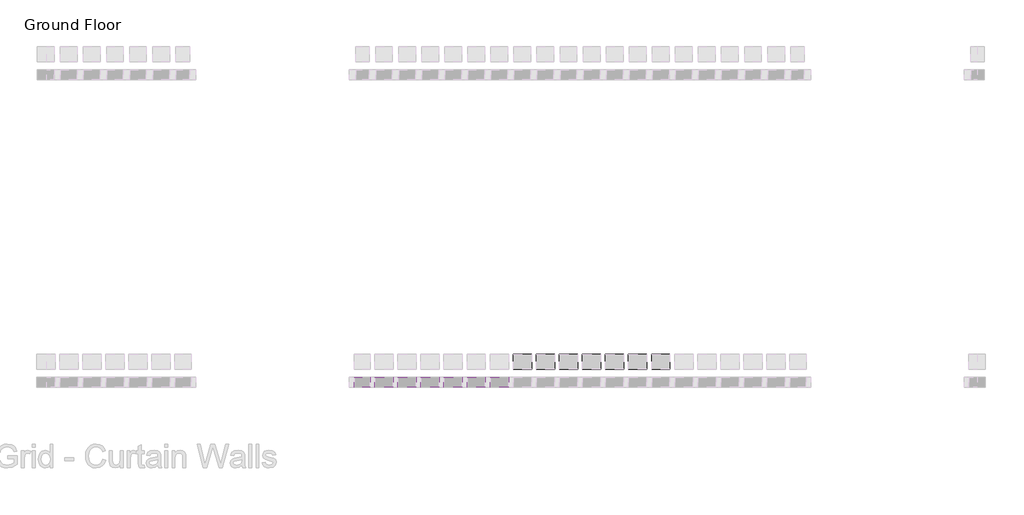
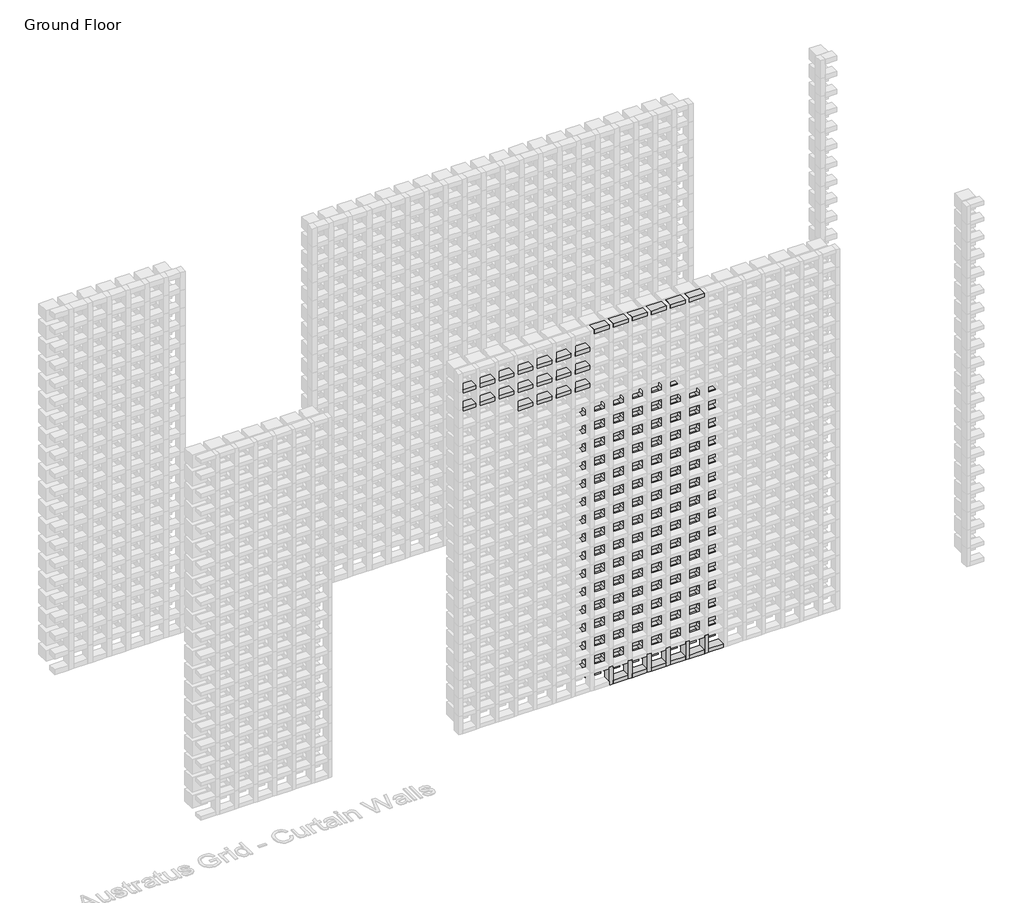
# One storey, part 58 of 350: 103 plates, 36 members.
"""IFC4 building model written with IfcOpenShell, lengths in millimetres."""

from ifc_helpers import new_model, si_unit, origin, place, context, project, spatial, transform, mapped, element, save
from components import rectangular_mullion_5b501421, rectangular_mullion_51467dcc, rectangular_mullion_d4c9a775, rectangular_mullion_e9e2e2fa, rectangular_mullion_f28dea33, empty_system_panel_empty_a57e421f, empty_system_panel_empty_fe50b430

model = new_model("IFC4")

# Units and contexts
model_context = context("Model", 3, world=origin())
ifc_project = project(units=[si_unit("LENGTHUNIT", "METRE", prefix="MILLI")], contexts=[model_context])

# Site, building, storey
site = spatial("IfcSite", under=ifc_project)
building = spatial("IfcBuilding", under=site)
storey = spatial("IfcBuildingStorey", under=building, Name="Ground Floor", Elevation=0.0)

# Members
placement = place(None, origin())
rectangular_mullion_shape = rectangular_mullion_5b501421(model_context)
element("IfcMember", 1, ObjectType="Rectangular Mullion : Batten_Timber_Modinex_Austratus_Grid_Fascia_30x65_Blackbutt", at=placement, inside=storey, context=model_context, shape_type="MappedRepresentation", body=[
    mapped(rectangular_mullion_shape, transform((7116.4361642, 38968.2978302, 0.0), x_axis=(1.0, 0.0, 0.0), y_axis=(0.0, -1.0, 0.0), z_axis=(0.0, 0.0, -1.0))),
])
element("IfcMember", 2, ObjectType="Rectangular Mullion : Batten_Timber_Modinex_Austratus_Grid_Fascia_30x65_Blackbutt", at=placement, inside=storey, context=model_context, shape_type="MappedRepresentation", body=[
    mapped(rectangular_mullion_shape, transform((7266.4361642, 38968.2978302, 0.0), x_axis=(1.0, 0.0, 0.0), y_axis=(0.0, -1.0, 0.0), z_axis=(0.0, 0.0, -1.0))),
])
element("IfcMember", 3, ObjectType="Rectangular Mullion : Batten_Timber_Modinex_Austratus_Grid_Fascia_30x65_Blackbutt", at=placement, inside=storey, context=model_context, shape_type="MappedRepresentation", body=[
    mapped(rectangular_mullion_shape, transform((7416.4361642, 38968.2978302, 0.0), x_axis=(1.0, 0.0, 0.0), y_axis=(0.0, -1.0, 0.0), z_axis=(0.0, 0.0, -1.0))),
])
element("IfcMember", 4, ObjectType="Rectangular Mullion : Batten_Timber_Modinex_Austratus_Grid_Fascia_30x65_Blackbutt", at=placement, inside=storey, context=model_context, shape_type="MappedRepresentation", body=[
    mapped(rectangular_mullion_shape, transform((7566.4361642, 38968.2978302, 0.0), x_axis=(1.0, 0.0, 0.0), y_axis=(0.0, -1.0, 0.0), z_axis=(0.0, 0.0, -1.0))),
])
element("IfcMember", 5, ObjectType="Rectangular Mullion : Batten_Timber_Modinex_Austratus_Grid_Fascia_30x65_Blackbutt", at=placement, inside=storey, context=model_context, shape_type="MappedRepresentation", body=[
    mapped(rectangular_mullion_shape, transform((7716.4361642, 38968.2978302, 0.0), x_axis=(1.0, 0.0, 0.0), y_axis=(0.0, -1.0, 0.0), z_axis=(0.0, 0.0, -1.0))),
])
element("IfcMember", 6, ObjectType="Rectangular Mullion : Batten_Timber_Modinex_Austratus_Grid_Fascia_30x65_Blackbutt", at=placement, inside=storey, context=model_context, shape_type="MappedRepresentation", body=[
    mapped(rectangular_mullion_shape, transform((7866.4361642, 38968.2978302, 0.0), x_axis=(1.0, 0.0, 0.0), y_axis=(0.0, -1.0, 0.0), z_axis=(0.0, 0.0, -1.0))),
])
rectangular_mullion_2_shape = rectangular_mullion_51467dcc(model_context)
element("IfcMember", 7, ObjectType="Rectangular Mullion : Batten_Timber_Modinex_Austratus_Grid_Fascia_30x65_Blackbutt", at=placement, inside=storey, context=model_context, shape_type="MappedRepresentation", body=[
    mapped(rectangular_mullion_2_shape, transform((7101.4361642, 38968.2978302, 3000.0), x_axis=(0.0, 0.0, 1.0), y_axis=(0.0, -1.0, 0.0), z_axis=(1.0, 0.0, 0.0))),
])
element("IfcMember", 8, ObjectType="Rectangular Mullion : Batten_Timber_Modinex_Austratus_Grid_Fascia_30x65_Blackbutt", at=placement, inside=storey, context=model_context, shape_type="MappedRepresentation", body=[
    mapped(rectangular_mullion_2_shape, transform((7251.4361642, 38968.2978302, 3000.0), x_axis=(0.0, 0.0, 1.0), y_axis=(0.0, -1.0, 0.0), z_axis=(1.0, 0.0, 0.0))),
])
element("IfcMember", 9, ObjectType="Rectangular Mullion : Batten_Timber_Modinex_Austratus_Grid_Fascia_30x65_Blackbutt", at=placement, inside=storey, context=model_context, shape_type="MappedRepresentation", body=[
    mapped(rectangular_mullion_2_shape, transform((7401.4361642, 38968.2978302, 3000.0), x_axis=(0.0, 0.0, 1.0), y_axis=(0.0, -1.0, 0.0), z_axis=(1.0, 0.0, 0.0))),
])
element("IfcMember", 10, ObjectType="Rectangular Mullion : Batten_Timber_Modinex_Austratus_Grid_Fascia_30x65_Blackbutt", at=placement, inside=storey, context=model_context, shape_type="MappedRepresentation", body=[
    mapped(rectangular_mullion_2_shape, transform((7551.4361642, 38968.2978302, 3000.0), x_axis=(0.0, 0.0, 1.0), y_axis=(0.0, -1.0, 0.0), z_axis=(1.0, 0.0, 0.0))),
])
element("IfcMember", 11, ObjectType="Rectangular Mullion : Batten_Timber_Modinex_Austratus_Grid_Fascia_30x65_Blackbutt", at=placement, inside=storey, context=model_context, shape_type="MappedRepresentation", body=[
    mapped(rectangular_mullion_2_shape, transform((7701.4361642, 38968.2978302, 3000.0), x_axis=(0.0, 0.0, 1.0), y_axis=(0.0, -1.0, 0.0), z_axis=(1.0, 0.0, 0.0))),
])
element("IfcMember", 12, ObjectType="Rectangular Mullion : Batten_Timber_Modinex_Austratus_Grid_Fascia_30x65_Blackbutt", at=placement, inside=storey, context=model_context, shape_type="MappedRepresentation", body=[
    mapped(rectangular_mullion_2_shape, transform((7851.4361642, 38968.2978302, 3000.0), x_axis=(0.0, 0.0, 1.0), y_axis=(0.0, -1.0, 0.0), z_axis=(1.0, 0.0, 0.0))),
])
rectangular_mullion_3_shape = rectangular_mullion_d4c9a775(model_context)
element("IfcMember", 13, ObjectType="Rectangular Mullion : Batten_Timber_Modinex_Austratus_Grid_Fascia_30x65_Blackbutt", at=placement, inside=storey, context=model_context, shape_type="MappedRepresentation", body=[
    mapped(rectangular_mullion_3_shape, transform((7131.4361642, 38968.2978302, 0.0), x_axis=(0.0, 0.0, -1.0), y_axis=(0.0, -1.0, 0.0), z_axis=(-1.0, 0.0, 0.0))),
])
element("IfcMember", 14, ObjectType="Rectangular Mullion : Batten_Timber_Modinex_Austratus_Grid_Fascia_30x65_Blackbutt", at=placement, inside=storey, context=model_context, shape_type="MappedRepresentation", body=[
    mapped(rectangular_mullion_3_shape, transform((7281.4361642, 38968.2978302, 0.0), x_axis=(0.0, 0.0, -1.0), y_axis=(0.0, -1.0, 0.0), z_axis=(-1.0, 0.0, 0.0))),
])
element("IfcMember", 15, ObjectType="Rectangular Mullion : Batten_Timber_Modinex_Austratus_Grid_Fascia_30x65_Blackbutt", at=placement, inside=storey, context=model_context, shape_type="MappedRepresentation", body=[
    mapped(rectangular_mullion_3_shape, transform((7431.4361642, 38968.2978302, 0.0), x_axis=(0.0, 0.0, -1.0), y_axis=(0.0, -1.0, 0.0), z_axis=(-1.0, 0.0, 0.0))),
])
element("IfcMember", 16, ObjectType="Rectangular Mullion : Batten_Timber_Modinex_Austratus_Grid_Fascia_30x65_Blackbutt", at=placement, inside=storey, context=model_context, shape_type="MappedRepresentation", body=[
    mapped(rectangular_mullion_3_shape, transform((7581.4361642, 38968.2978302, 0.0), x_axis=(0.0, 0.0, -1.0), y_axis=(0.0, -1.0, 0.0), z_axis=(-1.0, 0.0, 0.0))),
])
element("IfcMember", 17, ObjectType="Rectangular Mullion : Batten_Timber_Modinex_Austratus_Grid_Fascia_30x65_Blackbutt", at=placement, inside=storey, context=model_context, shape_type="MappedRepresentation", body=[
    mapped(rectangular_mullion_3_shape, transform((7731.4361642, 38968.2978302, 0.0), x_axis=(0.0, 0.0, -1.0), y_axis=(0.0, -1.0, 0.0), z_axis=(-1.0, 0.0, 0.0))),
])
element("IfcMember", 18, ObjectType="Rectangular Mullion : Batten_Timber_Modinex_Austratus_Grid_Fascia_30x65_Blackbutt", at=placement, inside=storey, context=model_context, shape_type="MappedRepresentation", body=[
    mapped(rectangular_mullion_3_shape, transform((7881.4361642, 38968.2978302, 0.0), x_axis=(0.0, 0.0, -1.0), y_axis=(0.0, -1.0, 0.0), z_axis=(-1.0, 0.0, 0.0))),
])
rectangular_mullion_4_shape = rectangular_mullion_e9e2e2fa(model_context)
element("IfcMember", 19, ObjectType="Rectangular Mullion : Batten_Timber_Modinex_Austratus_Grid_Fascia_30x65_Blackbutt", at=placement, inside=storey, context=model_context, shape_type="MappedRepresentation", body=[
    mapped(rectangular_mullion_4_shape, transform((6051.4361642, 38968.2978302, 2700.0), x_axis=(0.0, 0.0, 1.0), y_axis=(0.0, -1.0, 0.0), z_axis=(1.0, 0.0, 0.0))),
])
element("IfcMember", 20, ObjectType="Rectangular Mullion : Batten_Timber_Modinex_Austratus_Grid_Fascia_30x65_Blackbutt", at=placement, inside=storey, context=model_context, shape_type="MappedRepresentation", body=[
    mapped(rectangular_mullion_4_shape, transform((6051.4361642, 38968.2978302, 2850.0), x_axis=(0.0, 0.0, 1.0), y_axis=(0.0, -1.0, 0.0), z_axis=(1.0, 0.0, 0.0))),
])
rectangular_mullion_5_shape = rectangular_mullion_f28dea33(model_context)
element("IfcMember", 21, ObjectType="Rectangular Mullion : Batten_Timber_Modinex_Austratus_Grid_Fascia_30x65_Blackbutt", at=placement, inside=storey, context=model_context, shape_type="MappedRepresentation", body=[
    mapped(rectangular_mullion_5_shape, transform((6501.4361642, 38968.2978302, 2550.0), x_axis=(0.0, 0.0, 1.0), y_axis=(0.0, -1.0, 0.0), z_axis=(1.0, 0.0, 0.0))),
])
element("IfcMember", 22, ObjectType="Rectangular Mullion : Batten_Timber_Modinex_Austratus_Grid_Fascia_30x65_Blackbutt", at=placement, inside=storey, context=model_context, shape_type="MappedRepresentation", body=[
    mapped(rectangular_mullion_5_shape, transform((6651.4361642, 38968.2978302, 2550.0), x_axis=(0.0, 0.0, 1.0), y_axis=(0.0, -1.0, 0.0), z_axis=(1.0, 0.0, 0.0))),
])
element("IfcMember", 23, ObjectType="Rectangular Mullion : Batten_Timber_Modinex_Austratus_Grid_Fascia_30x65_Blackbutt", at=placement, inside=storey, context=model_context, shape_type="MappedRepresentation", body=[
    mapped(rectangular_mullion_5_shape, transform((6801.4361642, 38968.2978302, 2550.0), x_axis=(0.0, 0.0, 1.0), y_axis=(0.0, -1.0, 0.0), z_axis=(1.0, 0.0, 0.0))),
])
element("IfcMember", 24, ObjectType="Rectangular Mullion : Batten_Timber_Modinex_Austratus_Grid_Fascia_30x65_Blackbutt", at=placement, inside=storey, context=model_context, shape_type="MappedRepresentation", body=[
    mapped(rectangular_mullion_5_shape, transform((6951.4361642, 38968.2978302, 2550.0), x_axis=(0.0, 0.0, 1.0), y_axis=(0.0, -1.0, 0.0), z_axis=(1.0, 0.0, 0.0))),
])
element("IfcMember", 25, ObjectType="Rectangular Mullion : Batten_Timber_Modinex_Austratus_Grid_Fascia_30x65_Blackbutt", at=placement, inside=storey, context=model_context, shape_type="MappedRepresentation", body=[
    mapped(rectangular_mullion_5_shape, transform((6201.4361642, 38968.2978302, 2700.0), x_axis=(0.0, 0.0, 1.0), y_axis=(0.0, -1.0, 0.0), z_axis=(1.0, 0.0, 0.0))),
])
element("IfcMember", 26, ObjectType="Rectangular Mullion : Batten_Timber_Modinex_Austratus_Grid_Fascia_30x65_Blackbutt", at=placement, inside=storey, context=model_context, shape_type="MappedRepresentation", body=[
    mapped(rectangular_mullion_5_shape, transform((6351.4361642, 38968.2978302, 2700.0), x_axis=(0.0, 0.0, 1.0), y_axis=(0.0, -1.0, 0.0), z_axis=(1.0, 0.0, 0.0))),
])
element("IfcMember", 27, ObjectType="Rectangular Mullion : Batten_Timber_Modinex_Austratus_Grid_Fascia_30x65_Blackbutt", at=placement, inside=storey, context=model_context, shape_type="MappedRepresentation", body=[
    mapped(rectangular_mullion_5_shape, transform((6501.4361642, 38968.2978302, 2700.0), x_axis=(0.0, 0.0, 1.0), y_axis=(0.0, -1.0, 0.0), z_axis=(1.0, 0.0, 0.0))),
])
element("IfcMember", 28, ObjectType="Rectangular Mullion : Batten_Timber_Modinex_Austratus_Grid_Fascia_30x65_Blackbutt", at=placement, inside=storey, context=model_context, shape_type="MappedRepresentation", body=[
    mapped(rectangular_mullion_5_shape, transform((6651.4361642, 38968.2978302, 2700.0), x_axis=(0.0, 0.0, 1.0), y_axis=(0.0, -1.0, 0.0), z_axis=(1.0, 0.0, 0.0))),
])
element("IfcMember", 29, ObjectType="Rectangular Mullion : Batten_Timber_Modinex_Austratus_Grid_Fascia_30x65_Blackbutt", at=placement, inside=storey, context=model_context, shape_type="MappedRepresentation", body=[
    mapped(rectangular_mullion_5_shape, transform((6801.4361642, 38968.2978302, 2700.0), x_axis=(0.0, 0.0, 1.0), y_axis=(0.0, -1.0, 0.0), z_axis=(1.0, 0.0, 0.0))),
])
element("IfcMember", 30, ObjectType="Rectangular Mullion : Batten_Timber_Modinex_Austratus_Grid_Fascia_30x65_Blackbutt", at=placement, inside=storey, context=model_context, shape_type="MappedRepresentation", body=[
    mapped(rectangular_mullion_5_shape, transform((6951.4361642, 38968.2978302, 2700.0), x_axis=(0.0, 0.0, 1.0), y_axis=(0.0, -1.0, 0.0), z_axis=(1.0, 0.0, 0.0))),
])
element("IfcMember", 31, ObjectType="Rectangular Mullion : Batten_Timber_Modinex_Austratus_Grid_Fascia_30x65_Blackbutt", at=placement, inside=storey, context=model_context, shape_type="MappedRepresentation", body=[
    mapped(rectangular_mullion_5_shape, transform((6201.4361642, 38968.2978302, 2850.0), x_axis=(0.0, 0.0, 1.0), y_axis=(0.0, -1.0, 0.0), z_axis=(1.0, 0.0, 0.0))),
])
element("IfcMember", 32, ObjectType="Rectangular Mullion : Batten_Timber_Modinex_Austratus_Grid_Fascia_30x65_Blackbutt", at=placement, inside=storey, context=model_context, shape_type="MappedRepresentation", body=[
    mapped(rectangular_mullion_5_shape, transform((6351.4361642, 38968.2978302, 2850.0), x_axis=(0.0, 0.0, 1.0), y_axis=(0.0, -1.0, 0.0), z_axis=(1.0, 0.0, 0.0))),
])
element("IfcMember", 33, ObjectType="Rectangular Mullion : Batten_Timber_Modinex_Austratus_Grid_Fascia_30x65_Blackbutt", at=placement, inside=storey, context=model_context, shape_type="MappedRepresentation", body=[
    mapped(rectangular_mullion_5_shape, transform((6501.4361642, 38968.2978302, 2850.0), x_axis=(0.0, 0.0, 1.0), y_axis=(0.0, -1.0, 0.0), z_axis=(1.0, 0.0, 0.0))),
])
element("IfcMember", 34, ObjectType="Rectangular Mullion : Batten_Timber_Modinex_Austratus_Grid_Fascia_30x65_Blackbutt", at=placement, inside=storey, context=model_context, shape_type="MappedRepresentation", body=[
    mapped(rectangular_mullion_5_shape, transform((6651.4361642, 38968.2978302, 2850.0), x_axis=(0.0, 0.0, 1.0), y_axis=(0.0, -1.0, 0.0), z_axis=(1.0, 0.0, 0.0))),
])
element("IfcMember", 35, ObjectType="Rectangular Mullion : Batten_Timber_Modinex_Austratus_Grid_Fascia_30x65_Blackbutt", at=placement, inside=storey, context=model_context, shape_type="MappedRepresentation", body=[
    mapped(rectangular_mullion_5_shape, transform((6801.4361642, 38968.2978302, 2850.0), x_axis=(0.0, 0.0, 1.0), y_axis=(0.0, -1.0, 0.0), z_axis=(1.0, 0.0, 0.0))),
])
element("IfcMember", 36, ObjectType="Rectangular Mullion : Batten_Timber_Modinex_Austratus_Grid_Fascia_30x65_Blackbutt", at=placement, inside=storey, context=model_context, shape_type="MappedRepresentation", body=[
    mapped(rectangular_mullion_5_shape, transform((6951.4361642, 38968.2978302, 2850.0), x_axis=(0.0, 0.0, 1.0), y_axis=(0.0, -1.0, 0.0), z_axis=(1.0, 0.0, 0.0))),
])

# Plates
empty_system_panel_empty_shape = empty_system_panel_empty_a57e421f(model_context)
element("IfcPlate", 37, ObjectType="Empty System Panel : Empty", at=placement, inside=storey, context=model_context, shape_type="MappedRepresentation", body=[
    mapped(empty_system_panel_empty_shape, transform((7041.4361642, 38968.2978302, 165.0), x_axis=(1.0, 0.0, 0.0), y_axis=(0.0, 1.0, 0.0), z_axis=(0.0, 0.0, 1.0))),
])
element("IfcPlate", 38, ObjectType="Empty System Panel : Empty", at=placement, inside=storey, context=model_context, shape_type="MappedRepresentation", body=[
    mapped(empty_system_panel_empty_shape, transform((7191.4361642, 38968.2978302, 165.0), x_axis=(1.0, 0.0, 0.0), y_axis=(0.0, 1.0, 0.0), z_axis=(0.0, 0.0, 1.0))),
])
element("IfcPlate", 39, ObjectType="Empty System Panel : Empty", at=placement, inside=storey, context=model_context, shape_type="MappedRepresentation", body=[
    mapped(empty_system_panel_empty_shape, transform((7341.4361642, 38968.2978302, 165.0), x_axis=(1.0, 0.0, 0.0), y_axis=(0.0, 1.0, 0.0), z_axis=(0.0, 0.0, 1.0))),
])
element("IfcPlate", 40, ObjectType="Empty System Panel : Empty", at=placement, inside=storey, context=model_context, shape_type="MappedRepresentation", body=[
    mapped(empty_system_panel_empty_shape, transform((7491.4361642, 38968.2978302, 165.0), x_axis=(1.0, 0.0, 0.0), y_axis=(0.0, 1.0, 0.0), z_axis=(0.0, 0.0, 1.0))),
])
element("IfcPlate", 41, ObjectType="Empty System Panel : Empty", at=placement, inside=storey, context=model_context, shape_type="MappedRepresentation", body=[
    mapped(empty_system_panel_empty_shape, transform((7641.4361642, 38968.2978302, 165.0), x_axis=(1.0, 0.0, 0.0), y_axis=(0.0, 1.0, 0.0), z_axis=(0.0, 0.0, 1.0))),
])
element("IfcPlate", 42, ObjectType="Empty System Panel : Empty", at=placement, inside=storey, context=model_context, shape_type="MappedRepresentation", body=[
    mapped(empty_system_panel_empty_shape, transform((7791.4361642, 38968.2978302, 165.0), x_axis=(1.0, 0.0, 0.0), y_axis=(0.0, 1.0, 0.0), z_axis=(0.0, 0.0, 1.0))),
])
element("IfcPlate", 43, ObjectType="Empty System Panel : Empty", at=placement, inside=storey, context=model_context, shape_type="MappedRepresentation", body=[
    mapped(empty_system_panel_empty_shape, transform((7941.4361642, 38968.2978302, 165.0), x_axis=(1.0, 0.0, 0.0), y_axis=(0.0, 1.0, 0.0), z_axis=(0.0, 0.0, 1.0))),
])
element("IfcPlate", 44, ObjectType="Empty System Panel : Empty", at=placement, inside=storey, context=model_context, shape_type="MappedRepresentation", body=[
    mapped(empty_system_panel_empty_shape, transform((7041.4361642, 38968.2978302, 315.0), x_axis=(1.0, 0.0, 0.0), y_axis=(0.0, 1.0, 0.0), z_axis=(0.0, 0.0, 1.0))),
])
element("IfcPlate", 45, ObjectType="Empty System Panel : Empty", at=placement, inside=storey, context=model_context, shape_type="MappedRepresentation", body=[
    mapped(empty_system_panel_empty_shape, transform((7191.4361642, 38968.2978302, 315.0), x_axis=(1.0, 0.0, 0.0), y_axis=(0.0, 1.0, 0.0), z_axis=(0.0, 0.0, 1.0))),
])
element("IfcPlate", 46, ObjectType="Empty System Panel : Empty", at=placement, inside=storey, context=model_context, shape_type="MappedRepresentation", body=[
    mapped(empty_system_panel_empty_shape, transform((7341.4361642, 38968.2978302, 315.0), x_axis=(1.0, 0.0, 0.0), y_axis=(0.0, 1.0, 0.0), z_axis=(0.0, 0.0, 1.0))),
])
element("IfcPlate", 47, ObjectType="Empty System Panel : Empty", at=placement, inside=storey, context=model_context, shape_type="MappedRepresentation", body=[
    mapped(empty_system_panel_empty_shape, transform((7491.4361642, 38968.2978302, 315.0), x_axis=(1.0, 0.0, 0.0), y_axis=(0.0, 1.0, 0.0), z_axis=(0.0, 0.0, 1.0))),
])
element("IfcPlate", 48, ObjectType="Empty System Panel : Empty", at=placement, inside=storey, context=model_context, shape_type="MappedRepresentation", body=[
    mapped(empty_system_panel_empty_shape, transform((7641.4361642, 38968.2978302, 315.0), x_axis=(1.0, 0.0, 0.0), y_axis=(0.0, 1.0, 0.0), z_axis=(0.0, 0.0, 1.0))),
])
element("IfcPlate", 49, ObjectType="Empty System Panel : Empty", at=placement, inside=storey, context=model_context, shape_type="MappedRepresentation", body=[
    mapped(empty_system_panel_empty_shape, transform((7791.4361642, 38968.2978302, 315.0), x_axis=(1.0, 0.0, 0.0), y_axis=(0.0, 1.0, 0.0), z_axis=(0.0, 0.0, 1.0))),
])
element("IfcPlate", 50, ObjectType="Empty System Panel : Empty", at=placement, inside=storey, context=model_context, shape_type="MappedRepresentation", body=[
    mapped(empty_system_panel_empty_shape, transform((7941.4361642, 38968.2978302, 315.0), x_axis=(1.0, 0.0, 0.0), y_axis=(0.0, 1.0, 0.0), z_axis=(0.0, 0.0, 1.0))),
])
element("IfcPlate", 51, ObjectType="Empty System Panel : Empty", at=placement, inside=storey, context=model_context, shape_type="MappedRepresentation", body=[
    mapped(empty_system_panel_empty_shape, transform((7041.4361642, 38968.2978302, 465.0), x_axis=(1.0, 0.0, 0.0), y_axis=(0.0, 1.0, 0.0), z_axis=(0.0, 0.0, 1.0))),
])
element("IfcPlate", 52, ObjectType="Empty System Panel : Empty", at=placement, inside=storey, context=model_context, shape_type="MappedRepresentation", body=[
    mapped(empty_system_panel_empty_shape, transform((7191.4361642, 38968.2978302, 465.0), x_axis=(1.0, 0.0, 0.0), y_axis=(0.0, 1.0, 0.0), z_axis=(0.0, 0.0, 1.0))),
])
element("IfcPlate", 53, ObjectType="Empty System Panel : Empty", at=placement, inside=storey, context=model_context, shape_type="MappedRepresentation", body=[
    mapped(empty_system_panel_empty_shape, transform((7341.4361642, 38968.2978302, 465.0), x_axis=(1.0, 0.0, 0.0), y_axis=(0.0, 1.0, 0.0), z_axis=(0.0, 0.0, 1.0))),
])
element("IfcPlate", 54, ObjectType="Empty System Panel : Empty", at=placement, inside=storey, context=model_context, shape_type="MappedRepresentation", body=[
    mapped(empty_system_panel_empty_shape, transform((7491.4361642, 38968.2978302, 465.0), x_axis=(1.0, 0.0, 0.0), y_axis=(0.0, 1.0, 0.0), z_axis=(0.0, 0.0, 1.0))),
])
element("IfcPlate", 55, ObjectType="Empty System Panel : Empty", at=placement, inside=storey, context=model_context, shape_type="MappedRepresentation", body=[
    mapped(empty_system_panel_empty_shape, transform((7641.4361642, 38968.2978302, 465.0), x_axis=(1.0, 0.0, 0.0), y_axis=(0.0, 1.0, 0.0), z_axis=(0.0, 0.0, 1.0))),
])
element("IfcPlate", 56, ObjectType="Empty System Panel : Empty", at=placement, inside=storey, context=model_context, shape_type="MappedRepresentation", body=[
    mapped(empty_system_panel_empty_shape, transform((7791.4361642, 38968.2978302, 465.0), x_axis=(1.0, 0.0, 0.0), y_axis=(0.0, 1.0, 0.0), z_axis=(0.0, 0.0, 1.0))),
])
element("IfcPlate", 57, ObjectType="Empty System Panel : Empty", at=placement, inside=storey, context=model_context, shape_type="MappedRepresentation", body=[
    mapped(empty_system_panel_empty_shape, transform((7941.4361642, 38968.2978302, 465.0), x_axis=(1.0, 0.0, 0.0), y_axis=(0.0, 1.0, 0.0), z_axis=(0.0, 0.0, 1.0))),
])
element("IfcPlate", 58, ObjectType="Empty System Panel : Empty", at=placement, inside=storey, context=model_context, shape_type="MappedRepresentation", body=[
    mapped(empty_system_panel_empty_shape, transform((7041.4361642, 38968.2978302, 615.0), x_axis=(1.0, 0.0, 0.0), y_axis=(0.0, 1.0, 0.0), z_axis=(0.0, 0.0, 1.0))),
])
element("IfcPlate", 59, ObjectType="Empty System Panel : Empty", at=placement, inside=storey, context=model_context, shape_type="MappedRepresentation", body=[
    mapped(empty_system_panel_empty_shape, transform((7191.4361642, 38968.2978302, 615.0), x_axis=(1.0, 0.0, 0.0), y_axis=(0.0, 1.0, 0.0), z_axis=(0.0, 0.0, 1.0))),
])
element("IfcPlate", 60, ObjectType="Empty System Panel : Empty", at=placement, inside=storey, context=model_context, shape_type="MappedRepresentation", body=[
    mapped(empty_system_panel_empty_shape, transform((7341.4361642, 38968.2978302, 615.0), x_axis=(1.0, 0.0, 0.0), y_axis=(0.0, 1.0, 0.0), z_axis=(0.0, 0.0, 1.0))),
])
element("IfcPlate", 61, ObjectType="Empty System Panel : Empty", at=placement, inside=storey, context=model_context, shape_type="MappedRepresentation", body=[
    mapped(empty_system_panel_empty_shape, transform((7491.4361642, 38968.2978302, 615.0), x_axis=(1.0, 0.0, 0.0), y_axis=(0.0, 1.0, 0.0), z_axis=(0.0, 0.0, 1.0))),
])
element("IfcPlate", 62, ObjectType="Empty System Panel : Empty", at=placement, inside=storey, context=model_context, shape_type="MappedRepresentation", body=[
    mapped(empty_system_panel_empty_shape, transform((7641.4361642, 38968.2978302, 615.0), x_axis=(1.0, 0.0, 0.0), y_axis=(0.0, 1.0, 0.0), z_axis=(0.0, 0.0, 1.0))),
])
element("IfcPlate", 63, ObjectType="Empty System Panel : Empty", at=placement, inside=storey, context=model_context, shape_type="MappedRepresentation", body=[
    mapped(empty_system_panel_empty_shape, transform((7791.4361642, 38968.2978302, 615.0), x_axis=(1.0, 0.0, 0.0), y_axis=(0.0, 1.0, 0.0), z_axis=(0.0, 0.0, 1.0))),
])
element("IfcPlate", 64, ObjectType="Empty System Panel : Empty", at=placement, inside=storey, context=model_context, shape_type="MappedRepresentation", body=[
    mapped(empty_system_panel_empty_shape, transform((7941.4361642, 38968.2978302, 615.0), x_axis=(1.0, 0.0, 0.0), y_axis=(0.0, 1.0, 0.0), z_axis=(0.0, 0.0, 1.0))),
])
element("IfcPlate", 65, ObjectType="Empty System Panel : Empty", at=placement, inside=storey, context=model_context, shape_type="MappedRepresentation", body=[
    mapped(empty_system_panel_empty_shape, transform((7041.4361642, 38968.2978302, 765.0), x_axis=(1.0, 0.0, 0.0), y_axis=(0.0, 1.0, 0.0), z_axis=(0.0, 0.0, 1.0))),
])
element("IfcPlate", 66, ObjectType="Empty System Panel : Empty", at=placement, inside=storey, context=model_context, shape_type="MappedRepresentation", body=[
    mapped(empty_system_panel_empty_shape, transform((7191.4361642, 38968.2978302, 765.0), x_axis=(1.0, 0.0, 0.0), y_axis=(0.0, 1.0, 0.0), z_axis=(0.0, 0.0, 1.0))),
])
element("IfcPlate", 67, ObjectType="Empty System Panel : Empty", at=placement, inside=storey, context=model_context, shape_type="MappedRepresentation", body=[
    mapped(empty_system_panel_empty_shape, transform((7341.4361642, 38968.2978302, 765.0), x_axis=(1.0, 0.0, 0.0), y_axis=(0.0, 1.0, 0.0), z_axis=(0.0, 0.0, 1.0))),
])
element("IfcPlate", 68, ObjectType="Empty System Panel : Empty", at=placement, inside=storey, context=model_context, shape_type="MappedRepresentation", body=[
    mapped(empty_system_panel_empty_shape, transform((7491.4361642, 38968.2978302, 765.0), x_axis=(1.0, 0.0, 0.0), y_axis=(0.0, 1.0, 0.0), z_axis=(0.0, 0.0, 1.0))),
])
element("IfcPlate", 69, ObjectType="Empty System Panel : Empty", at=placement, inside=storey, context=model_context, shape_type="MappedRepresentation", body=[
    mapped(empty_system_panel_empty_shape, transform((7641.4361642, 38968.2978302, 765.0), x_axis=(1.0, 0.0, 0.0), y_axis=(0.0, 1.0, 0.0), z_axis=(0.0, 0.0, 1.0))),
])
element("IfcPlate", 70, ObjectType="Empty System Panel : Empty", at=placement, inside=storey, context=model_context, shape_type="MappedRepresentation", body=[
    mapped(empty_system_panel_empty_shape, transform((7791.4361642, 38968.2978302, 765.0), x_axis=(1.0, 0.0, 0.0), y_axis=(0.0, 1.0, 0.0), z_axis=(0.0, 0.0, 1.0))),
])
element("IfcPlate", 71, ObjectType="Empty System Panel : Empty", at=placement, inside=storey, context=model_context, shape_type="MappedRepresentation", body=[
    mapped(empty_system_panel_empty_shape, transform((7941.4361642, 38968.2978302, 765.0), x_axis=(1.0, 0.0, 0.0), y_axis=(0.0, 1.0, 0.0), z_axis=(0.0, 0.0, 1.0))),
])
element("IfcPlate", 72, ObjectType="Empty System Panel : Empty", at=placement, inside=storey, context=model_context, shape_type="MappedRepresentation", body=[
    mapped(empty_system_panel_empty_shape, transform((7041.4361642, 38968.2978302, 915.0), x_axis=(1.0, 0.0, 0.0), y_axis=(0.0, 1.0, 0.0), z_axis=(0.0, 0.0, 1.0))),
])
element("IfcPlate", 73, ObjectType="Empty System Panel : Empty", at=placement, inside=storey, context=model_context, shape_type="MappedRepresentation", body=[
    mapped(empty_system_panel_empty_shape, transform((7191.4361642, 38968.2978302, 915.0), x_axis=(1.0, 0.0, 0.0), y_axis=(0.0, 1.0, 0.0), z_axis=(0.0, 0.0, 1.0))),
])
element("IfcPlate", 74, ObjectType="Empty System Panel : Empty", at=placement, inside=storey, context=model_context, shape_type="MappedRepresentation", body=[
    mapped(empty_system_panel_empty_shape, transform((7341.4361642, 38968.2978302, 915.0), x_axis=(1.0, 0.0, 0.0), y_axis=(0.0, 1.0, 0.0), z_axis=(0.0, 0.0, 1.0))),
])
element("IfcPlate", 75, ObjectType="Empty System Panel : Empty", at=placement, inside=storey, context=model_context, shape_type="MappedRepresentation", body=[
    mapped(empty_system_panel_empty_shape, transform((7491.4361642, 38968.2978302, 915.0), x_axis=(1.0, 0.0, 0.0), y_axis=(0.0, 1.0, 0.0), z_axis=(0.0, 0.0, 1.0))),
])
element("IfcPlate", 76, ObjectType="Empty System Panel : Empty", at=placement, inside=storey, context=model_context, shape_type="MappedRepresentation", body=[
    mapped(empty_system_panel_empty_shape, transform((7641.4361642, 38968.2978302, 915.0), x_axis=(1.0, 0.0, 0.0), y_axis=(0.0, 1.0, 0.0), z_axis=(0.0, 0.0, 1.0))),
])
element("IfcPlate", 77, ObjectType="Empty System Panel : Empty", at=placement, inside=storey, context=model_context, shape_type="MappedRepresentation", body=[
    mapped(empty_system_panel_empty_shape, transform((7791.4361642, 38968.2978302, 915.0), x_axis=(1.0, 0.0, 0.0), y_axis=(0.0, 1.0, 0.0), z_axis=(0.0, 0.0, 1.0))),
])
element("IfcPlate", 78, ObjectType="Empty System Panel : Empty", at=placement, inside=storey, context=model_context, shape_type="MappedRepresentation", body=[
    mapped(empty_system_panel_empty_shape, transform((7941.4361642, 38968.2978302, 915.0), x_axis=(1.0, 0.0, 0.0), y_axis=(0.0, 1.0, 0.0), z_axis=(0.0, 0.0, 1.0))),
])
element("IfcPlate", 79, ObjectType="Empty System Panel : Empty", at=placement, inside=storey, context=model_context, shape_type="MappedRepresentation", body=[
    mapped(empty_system_panel_empty_shape, transform((7041.4361642, 38968.2978302, 1065.0), x_axis=(1.0, 0.0, 0.0), y_axis=(0.0, 1.0, 0.0), z_axis=(0.0, 0.0, 1.0))),
])
element("IfcPlate", 80, ObjectType="Empty System Panel : Empty", at=placement, inside=storey, context=model_context, shape_type="MappedRepresentation", body=[
    mapped(empty_system_panel_empty_shape, transform((7191.4361642, 38968.2978302, 1065.0), x_axis=(1.0, 0.0, 0.0), y_axis=(0.0, 1.0, 0.0), z_axis=(0.0, 0.0, 1.0))),
])
element("IfcPlate", 81, ObjectType="Empty System Panel : Empty", at=placement, inside=storey, context=model_context, shape_type="MappedRepresentation", body=[
    mapped(empty_system_panel_empty_shape, transform((7341.4361642, 38968.2978302, 1065.0), x_axis=(1.0, 0.0, 0.0), y_axis=(0.0, 1.0, 0.0), z_axis=(0.0, 0.0, 1.0))),
])
element("IfcPlate", 82, ObjectType="Empty System Panel : Empty", at=placement, inside=storey, context=model_context, shape_type="MappedRepresentation", body=[
    mapped(empty_system_panel_empty_shape, transform((7491.4361642, 38968.2978302, 1065.0), x_axis=(1.0, 0.0, 0.0), y_axis=(0.0, 1.0, 0.0), z_axis=(0.0, 0.0, 1.0))),
])
element("IfcPlate", 83, ObjectType="Empty System Panel : Empty", at=placement, inside=storey, context=model_context, shape_type="MappedRepresentation", body=[
    mapped(empty_system_panel_empty_shape, transform((7641.4361642, 38968.2978302, 1065.0), x_axis=(1.0, 0.0, 0.0), y_axis=(0.0, 1.0, 0.0), z_axis=(0.0, 0.0, 1.0))),
])
element("IfcPlate", 84, ObjectType="Empty System Panel : Empty", at=placement, inside=storey, context=model_context, shape_type="MappedRepresentation", body=[
    mapped(empty_system_panel_empty_shape, transform((7791.4361642, 38968.2978302, 1065.0), x_axis=(1.0, 0.0, 0.0), y_axis=(0.0, 1.0, 0.0), z_axis=(0.0, 0.0, 1.0))),
])
element("IfcPlate", 85, ObjectType="Empty System Panel : Empty", at=placement, inside=storey, context=model_context, shape_type="MappedRepresentation", body=[
    mapped(empty_system_panel_empty_shape, transform((7941.4361642, 38968.2978302, 1065.0), x_axis=(1.0, 0.0, 0.0), y_axis=(0.0, 1.0, 0.0), z_axis=(0.0, 0.0, 1.0))),
])
element("IfcPlate", 86, ObjectType="Empty System Panel : Empty", at=placement, inside=storey, context=model_context, shape_type="MappedRepresentation", body=[
    mapped(empty_system_panel_empty_shape, transform((7041.4361642, 38968.2978302, 1215.0), x_axis=(1.0, 0.0, 0.0), y_axis=(0.0, 1.0, 0.0), z_axis=(0.0, 0.0, 1.0))),
])
element("IfcPlate", 87, ObjectType="Empty System Panel : Empty", at=placement, inside=storey, context=model_context, shape_type="MappedRepresentation", body=[
    mapped(empty_system_panel_empty_shape, transform((7191.4361642, 38968.2978302, 1215.0), x_axis=(1.0, 0.0, 0.0), y_axis=(0.0, 1.0, 0.0), z_axis=(0.0, 0.0, 1.0))),
])
element("IfcPlate", 88, ObjectType="Empty System Panel : Empty", at=placement, inside=storey, context=model_context, shape_type="MappedRepresentation", body=[
    mapped(empty_system_panel_empty_shape, transform((7341.4361642, 38968.2978302, 1215.0), x_axis=(1.0, 0.0, 0.0), y_axis=(0.0, 1.0, 0.0), z_axis=(0.0, 0.0, 1.0))),
])
element("IfcPlate", 89, ObjectType="Empty System Panel : Empty", at=placement, inside=storey, context=model_context, shape_type="MappedRepresentation", body=[
    mapped(empty_system_panel_empty_shape, transform((7491.4361642, 38968.2978302, 1215.0), x_axis=(1.0, 0.0, 0.0), y_axis=(0.0, 1.0, 0.0), z_axis=(0.0, 0.0, 1.0))),
])
element("IfcPlate", 90, ObjectType="Empty System Panel : Empty", at=placement, inside=storey, context=model_context, shape_type="MappedRepresentation", body=[
    mapped(empty_system_panel_empty_shape, transform((7641.4361642, 38968.2978302, 1215.0), x_axis=(1.0, 0.0, 0.0), y_axis=(0.0, 1.0, 0.0), z_axis=(0.0, 0.0, 1.0))),
])
element("IfcPlate", 91, ObjectType="Empty System Panel : Empty", at=placement, inside=storey, context=model_context, shape_type="MappedRepresentation", body=[
    mapped(empty_system_panel_empty_shape, transform((7791.4361642, 38968.2978302, 1215.0), x_axis=(1.0, 0.0, 0.0), y_axis=(0.0, 1.0, 0.0), z_axis=(0.0, 0.0, 1.0))),
])
element("IfcPlate", 92, ObjectType="Empty System Panel : Empty", at=placement, inside=storey, context=model_context, shape_type="MappedRepresentation", body=[
    mapped(empty_system_panel_empty_shape, transform((7941.4361642, 38968.2978302, 1215.0), x_axis=(1.0, 0.0, 0.0), y_axis=(0.0, 1.0, 0.0), z_axis=(0.0, 0.0, 1.0))),
])
element("IfcPlate", 93, ObjectType="Empty System Panel : Empty", at=placement, inside=storey, context=model_context, shape_type="MappedRepresentation", body=[
    mapped(empty_system_panel_empty_shape, transform((7041.4361642, 38968.2978302, 1365.0), x_axis=(1.0, 0.0, 0.0), y_axis=(0.0, 1.0, 0.0), z_axis=(0.0, 0.0, 1.0))),
])
element("IfcPlate", 94, ObjectType="Empty System Panel : Empty", at=placement, inside=storey, context=model_context, shape_type="MappedRepresentation", body=[
    mapped(empty_system_panel_empty_shape, transform((7191.4361642, 38968.2978302, 1365.0), x_axis=(1.0, 0.0, 0.0), y_axis=(0.0, 1.0, 0.0), z_axis=(0.0, 0.0, 1.0))),
])
element("IfcPlate", 95, ObjectType="Empty System Panel : Empty", at=placement, inside=storey, context=model_context, shape_type="MappedRepresentation", body=[
    mapped(empty_system_panel_empty_shape, transform((7341.4361642, 38968.2978302, 1365.0), x_axis=(1.0, 0.0, 0.0), y_axis=(0.0, 1.0, 0.0), z_axis=(0.0, 0.0, 1.0))),
])
element("IfcPlate", 96, ObjectType="Empty System Panel : Empty", at=placement, inside=storey, context=model_context, shape_type="MappedRepresentation", body=[
    mapped(empty_system_panel_empty_shape, transform((7491.4361642, 38968.2978302, 1365.0), x_axis=(1.0, 0.0, 0.0), y_axis=(0.0, 1.0, 0.0), z_axis=(0.0, 0.0, 1.0))),
])
element("IfcPlate", 97, ObjectType="Empty System Panel : Empty", at=placement, inside=storey, context=model_context, shape_type="MappedRepresentation", body=[
    mapped(empty_system_panel_empty_shape, transform((7641.4361642, 38968.2978302, 1365.0), x_axis=(1.0, 0.0, 0.0), y_axis=(0.0, 1.0, 0.0), z_axis=(0.0, 0.0, 1.0))),
])
element("IfcPlate", 98, ObjectType="Empty System Panel : Empty", at=placement, inside=storey, context=model_context, shape_type="MappedRepresentation", body=[
    mapped(empty_system_panel_empty_shape, transform((7791.4361642, 38968.2978302, 1365.0), x_axis=(1.0, 0.0, 0.0), y_axis=(0.0, 1.0, 0.0), z_axis=(0.0, 0.0, 1.0))),
])
element("IfcPlate", 99, ObjectType="Empty System Panel : Empty", at=placement, inside=storey, context=model_context, shape_type="MappedRepresentation", body=[
    mapped(empty_system_panel_empty_shape, transform((7941.4361642, 38968.2978302, 1365.0), x_axis=(1.0, 0.0, 0.0), y_axis=(0.0, 1.0, 0.0), z_axis=(0.0, 0.0, 1.0))),
])
element("IfcPlate", 100, ObjectType="Empty System Panel : Empty", at=placement, inside=storey, context=model_context, shape_type="MappedRepresentation", body=[
    mapped(empty_system_panel_empty_shape, transform((7041.4361642, 38968.2978302, 1515.0), x_axis=(1.0, 0.0, 0.0), y_axis=(0.0, 1.0, 0.0), z_axis=(0.0, 0.0, 1.0))),
])
element("IfcPlate", 101, ObjectType="Empty System Panel : Empty", at=placement, inside=storey, context=model_context, shape_type="MappedRepresentation", body=[
    mapped(empty_system_panel_empty_shape, transform((7191.4361642, 38968.2978302, 1515.0), x_axis=(1.0, 0.0, 0.0), y_axis=(0.0, 1.0, 0.0), z_axis=(0.0, 0.0, 1.0))),
])
element("IfcPlate", 102, ObjectType="Empty System Panel : Empty", at=placement, inside=storey, context=model_context, shape_type="MappedRepresentation", body=[
    mapped(empty_system_panel_empty_shape, transform((7341.4361642, 38968.2978302, 1515.0), x_axis=(1.0, 0.0, 0.0), y_axis=(0.0, 1.0, 0.0), z_axis=(0.0, 0.0, 1.0))),
])
element("IfcPlate", 103, ObjectType="Empty System Panel : Empty", at=placement, inside=storey, context=model_context, shape_type="MappedRepresentation", body=[
    mapped(empty_system_panel_empty_shape, transform((7491.4361642, 38968.2978302, 1515.0), x_axis=(1.0, 0.0, 0.0), y_axis=(0.0, 1.0, 0.0), z_axis=(0.0, 0.0, 1.0))),
])
element("IfcPlate", 104, ObjectType="Empty System Panel : Empty", at=placement, inside=storey, context=model_context, shape_type="MappedRepresentation", body=[
    mapped(empty_system_panel_empty_shape, transform((7641.4361642, 38968.2978302, 1515.0), x_axis=(1.0, 0.0, 0.0), y_axis=(0.0, 1.0, 0.0), z_axis=(0.0, 0.0, 1.0))),
])
element("IfcPlate", 105, ObjectType="Empty System Panel : Empty", at=placement, inside=storey, context=model_context, shape_type="MappedRepresentation", body=[
    mapped(empty_system_panel_empty_shape, transform((7791.4361642, 38968.2978302, 1515.0), x_axis=(1.0, 0.0, 0.0), y_axis=(0.0, 1.0, 0.0), z_axis=(0.0, 0.0, 1.0))),
])
element("IfcPlate", 106, ObjectType="Empty System Panel : Empty", at=placement, inside=storey, context=model_context, shape_type="MappedRepresentation", body=[
    mapped(empty_system_panel_empty_shape, transform((7941.4361642, 38968.2978302, 1515.0), x_axis=(1.0, 0.0, 0.0), y_axis=(0.0, 1.0, 0.0), z_axis=(0.0, 0.0, 1.0))),
])
element("IfcPlate", 107, ObjectType="Empty System Panel : Empty", at=placement, inside=storey, context=model_context, shape_type="MappedRepresentation", body=[
    mapped(empty_system_panel_empty_shape, transform((7041.4361642, 38968.2978302, 1665.0), x_axis=(1.0, 0.0, 0.0), y_axis=(0.0, 1.0, 0.0), z_axis=(0.0, 0.0, 1.0))),
])
element("IfcPlate", 108, ObjectType="Empty System Panel : Empty", at=placement, inside=storey, context=model_context, shape_type="MappedRepresentation", body=[
    mapped(empty_system_panel_empty_shape, transform((7191.4361642, 38968.2978302, 1665.0), x_axis=(1.0, 0.0, 0.0), y_axis=(0.0, 1.0, 0.0), z_axis=(0.0, 0.0, 1.0))),
])
element("IfcPlate", 109, ObjectType="Empty System Panel : Empty", at=placement, inside=storey, context=model_context, shape_type="MappedRepresentation", body=[
    mapped(empty_system_panel_empty_shape, transform((7341.4361642, 38968.2978302, 1665.0), x_axis=(1.0, 0.0, 0.0), y_axis=(0.0, 1.0, 0.0), z_axis=(0.0, 0.0, 1.0))),
])
element("IfcPlate", 110, ObjectType="Empty System Panel : Empty", at=placement, inside=storey, context=model_context, shape_type="MappedRepresentation", body=[
    mapped(empty_system_panel_empty_shape, transform((7491.4361642, 38968.2978302, 1665.0), x_axis=(1.0, 0.0, 0.0), y_axis=(0.0, 1.0, 0.0), z_axis=(0.0, 0.0, 1.0))),
])
element("IfcPlate", 111, ObjectType="Empty System Panel : Empty", at=placement, inside=storey, context=model_context, shape_type="MappedRepresentation", body=[
    mapped(empty_system_panel_empty_shape, transform((7641.4361642, 38968.2978302, 1665.0), x_axis=(1.0, 0.0, 0.0), y_axis=(0.0, 1.0, 0.0), z_axis=(0.0, 0.0, 1.0))),
])
element("IfcPlate", 112, ObjectType="Empty System Panel : Empty", at=placement, inside=storey, context=model_context, shape_type="MappedRepresentation", body=[
    mapped(empty_system_panel_empty_shape, transform((7791.4361642, 38968.2978302, 1665.0), x_axis=(1.0, 0.0, 0.0), y_axis=(0.0, 1.0, 0.0), z_axis=(0.0, 0.0, 1.0))),
])
element("IfcPlate", 113, ObjectType="Empty System Panel : Empty", at=placement, inside=storey, context=model_context, shape_type="MappedRepresentation", body=[
    mapped(empty_system_panel_empty_shape, transform((7941.4361642, 38968.2978302, 1665.0), x_axis=(1.0, 0.0, 0.0), y_axis=(0.0, 1.0, 0.0), z_axis=(0.0, 0.0, 1.0))),
])
element("IfcPlate", 114, ObjectType="Empty System Panel : Empty", at=placement, inside=storey, context=model_context, shape_type="MappedRepresentation", body=[
    mapped(empty_system_panel_empty_shape, transform((7041.4361642, 38968.2978302, 1815.0), x_axis=(1.0, 0.0, 0.0), y_axis=(0.0, 1.0, 0.0), z_axis=(0.0, 0.0, 1.0))),
])
element("IfcPlate", 115, ObjectType="Empty System Panel : Empty", at=placement, inside=storey, context=model_context, shape_type="MappedRepresentation", body=[
    mapped(empty_system_panel_empty_shape, transform((7191.4361642, 38968.2978302, 1815.0), x_axis=(1.0, 0.0, 0.0), y_axis=(0.0, 1.0, 0.0), z_axis=(0.0, 0.0, 1.0))),
])
element("IfcPlate", 116, ObjectType="Empty System Panel : Empty", at=placement, inside=storey, context=model_context, shape_type="MappedRepresentation", body=[
    mapped(empty_system_panel_empty_shape, transform((7341.4361642, 38968.2978302, 1815.0), x_axis=(1.0, 0.0, 0.0), y_axis=(0.0, 1.0, 0.0), z_axis=(0.0, 0.0, 1.0))),
])
element("IfcPlate", 117, ObjectType="Empty System Panel : Empty", at=placement, inside=storey, context=model_context, shape_type="MappedRepresentation", body=[
    mapped(empty_system_panel_empty_shape, transform((7491.4361642, 38968.2978302, 1815.0), x_axis=(1.0, 0.0, 0.0), y_axis=(0.0, 1.0, 0.0), z_axis=(0.0, 0.0, 1.0))),
])
element("IfcPlate", 118, ObjectType="Empty System Panel : Empty", at=placement, inside=storey, context=model_context, shape_type="MappedRepresentation", body=[
    mapped(empty_system_panel_empty_shape, transform((7641.4361642, 38968.2978302, 1815.0), x_axis=(1.0, 0.0, 0.0), y_axis=(0.0, 1.0, 0.0), z_axis=(0.0, 0.0, 1.0))),
])
element("IfcPlate", 119, ObjectType="Empty System Panel : Empty", at=placement, inside=storey, context=model_context, shape_type="MappedRepresentation", body=[
    mapped(empty_system_panel_empty_shape, transform((7791.4361642, 38968.2978302, 1815.0), x_axis=(1.0, 0.0, 0.0), y_axis=(0.0, 1.0, 0.0), z_axis=(0.0, 0.0, 1.0))),
])
element("IfcPlate", 120, ObjectType="Empty System Panel : Empty", at=placement, inside=storey, context=model_context, shape_type="MappedRepresentation", body=[
    mapped(empty_system_panel_empty_shape, transform((7941.4361642, 38968.2978302, 1815.0), x_axis=(1.0, 0.0, 0.0), y_axis=(0.0, 1.0, 0.0), z_axis=(0.0, 0.0, 1.0))),
])
element("IfcPlate", 121, ObjectType="Empty System Panel : Empty", at=placement, inside=storey, context=model_context, shape_type="MappedRepresentation", body=[
    mapped(empty_system_panel_empty_shape, transform((7041.4361642, 38968.2978302, 1965.0), x_axis=(1.0, 0.0, 0.0), y_axis=(0.0, 1.0, 0.0), z_axis=(0.0, 0.0, 1.0))),
])
element("IfcPlate", 122, ObjectType="Empty System Panel : Empty", at=placement, inside=storey, context=model_context, shape_type="MappedRepresentation", body=[
    mapped(empty_system_panel_empty_shape, transform((7191.4361642, 38968.2978302, 1965.0), x_axis=(1.0, 0.0, 0.0), y_axis=(0.0, 1.0, 0.0), z_axis=(0.0, 0.0, 1.0))),
])
element("IfcPlate", 123, ObjectType="Empty System Panel : Empty", at=placement, inside=storey, context=model_context, shape_type="MappedRepresentation", body=[
    mapped(empty_system_panel_empty_shape, transform((7341.4361642, 38968.2978302, 1965.0), x_axis=(1.0, 0.0, 0.0), y_axis=(0.0, 1.0, 0.0), z_axis=(0.0, 0.0, 1.0))),
])
element("IfcPlate", 124, ObjectType="Empty System Panel : Empty", at=placement, inside=storey, context=model_context, shape_type="MappedRepresentation", body=[
    mapped(empty_system_panel_empty_shape, transform((7491.4361642, 38968.2978302, 1965.0), x_axis=(1.0, 0.0, 0.0), y_axis=(0.0, 1.0, 0.0), z_axis=(0.0, 0.0, 1.0))),
])
element("IfcPlate", 125, ObjectType="Empty System Panel : Empty", at=placement, inside=storey, context=model_context, shape_type="MappedRepresentation", body=[
    mapped(empty_system_panel_empty_shape, transform((7641.4361642, 38968.2978302, 1965.0), x_axis=(1.0, 0.0, 0.0), y_axis=(0.0, 1.0, 0.0), z_axis=(0.0, 0.0, 1.0))),
])
element("IfcPlate", 126, ObjectType="Empty System Panel : Empty", at=placement, inside=storey, context=model_context, shape_type="MappedRepresentation", body=[
    mapped(empty_system_panel_empty_shape, transform((7791.4361642, 38968.2978302, 1965.0), x_axis=(1.0, 0.0, 0.0), y_axis=(0.0, 1.0, 0.0), z_axis=(0.0, 0.0, 1.0))),
])
element("IfcPlate", 127, ObjectType="Empty System Panel : Empty", at=placement, inside=storey, context=model_context, shape_type="MappedRepresentation", body=[
    mapped(empty_system_panel_empty_shape, transform((7941.4361642, 38968.2978302, 1965.0), x_axis=(1.0, 0.0, 0.0), y_axis=(0.0, 1.0, 0.0), z_axis=(0.0, 0.0, 1.0))),
])
element("IfcPlate", 128, ObjectType="Empty System Panel : Empty", at=placement, inside=storey, context=model_context, shape_type="MappedRepresentation", body=[
    mapped(empty_system_panel_empty_shape, transform((7041.4361642, 38968.2978302, 2115.0), x_axis=(1.0, 0.0, 0.0), y_axis=(0.0, 1.0, 0.0), z_axis=(0.0, 0.0, 1.0))),
])
element("IfcPlate", 129, ObjectType="Empty System Panel : Empty", at=placement, inside=storey, context=model_context, shape_type="MappedRepresentation", body=[
    mapped(empty_system_panel_empty_shape, transform((7191.4361642, 38968.2978302, 2115.0), x_axis=(1.0, 0.0, 0.0), y_axis=(0.0, 1.0, 0.0), z_axis=(0.0, 0.0, 1.0))),
])
element("IfcPlate", 130, ObjectType="Empty System Panel : Empty", at=placement, inside=storey, context=model_context, shape_type="MappedRepresentation", body=[
    mapped(empty_system_panel_empty_shape, transform((7341.4361642, 38968.2978302, 2115.0), x_axis=(1.0, 0.0, 0.0), y_axis=(0.0, 1.0, 0.0), z_axis=(0.0, 0.0, 1.0))),
])
element("IfcPlate", 131, ObjectType="Empty System Panel : Empty", at=placement, inside=storey, context=model_context, shape_type="MappedRepresentation", body=[
    mapped(empty_system_panel_empty_shape, transform((7491.4361642, 38968.2978302, 2115.0), x_axis=(1.0, 0.0, 0.0), y_axis=(0.0, 1.0, 0.0), z_axis=(0.0, 0.0, 1.0))),
])
element("IfcPlate", 132, ObjectType="Empty System Panel : Empty", at=placement, inside=storey, context=model_context, shape_type="MappedRepresentation", body=[
    mapped(empty_system_panel_empty_shape, transform((7641.4361642, 38968.2978302, 2115.0), x_axis=(1.0, 0.0, 0.0), y_axis=(0.0, 1.0, 0.0), z_axis=(0.0, 0.0, 1.0))),
])
empty_system_panel_empty_2_shape = empty_system_panel_empty_fe50b430(model_context)
element("IfcPlate", 133, ObjectType="Empty System Panel : Empty", at=placement, inside=storey, context=model_context, shape_type="MappedRepresentation", body=[
    mapped(empty_system_panel_empty_2_shape, transform((7041.4361642, 38968.2978302, 30.0), x_axis=(1.0, 0.0, 0.0), y_axis=(0.0, 1.0, 0.0), z_axis=(0.0, 0.0, 1.0))),
])
element("IfcPlate", 134, ObjectType="Empty System Panel : Empty", at=placement, inside=storey, context=model_context, shape_type="MappedRepresentation", body=[
    mapped(empty_system_panel_empty_2_shape, transform((7191.4361642, 38968.2978302, 30.0), x_axis=(1.0, 0.0, 0.0), y_axis=(0.0, 1.0, 0.0), z_axis=(0.0, 0.0, 1.0))),
])
element("IfcPlate", 135, ObjectType="Empty System Panel : Empty", at=placement, inside=storey, context=model_context, shape_type="MappedRepresentation", body=[
    mapped(empty_system_panel_empty_2_shape, transform((7341.4361642, 38968.2978302, 30.0), x_axis=(1.0, 0.0, 0.0), y_axis=(0.0, 1.0, 0.0), z_axis=(0.0, 0.0, 1.0))),
])
element("IfcPlate", 136, ObjectType="Empty System Panel : Empty", at=placement, inside=storey, context=model_context, shape_type="MappedRepresentation", body=[
    mapped(empty_system_panel_empty_2_shape, transform((7491.4361642, 38968.2978302, 30.0), x_axis=(1.0, 0.0, 0.0), y_axis=(0.0, 1.0, 0.0), z_axis=(0.0, 0.0, 1.0))),
])
element("IfcPlate", 137, ObjectType="Empty System Panel : Empty", at=placement, inside=storey, context=model_context, shape_type="MappedRepresentation", body=[
    mapped(empty_system_panel_empty_2_shape, transform((7641.4361642, 38968.2978302, 30.0), x_axis=(1.0, 0.0, 0.0), y_axis=(0.0, 1.0, 0.0), z_axis=(0.0, 0.0, 1.0))),
])
element("IfcPlate", 138, ObjectType="Empty System Panel : Empty", at=placement, inside=storey, context=model_context, shape_type="MappedRepresentation", body=[
    mapped(empty_system_panel_empty_2_shape, transform((7791.4361642, 38968.2978302, 30.0), x_axis=(1.0, 0.0, 0.0), y_axis=(0.0, 1.0, 0.0), z_axis=(0.0, 0.0, 1.0))),
])
element("IfcPlate", 139, ObjectType="Empty System Panel : Empty", at=placement, inside=storey, context=model_context, shape_type="MappedRepresentation", body=[
    mapped(empty_system_panel_empty_2_shape, transform((7941.4361642, 38968.2978302, 30.0), x_axis=(1.0, 0.0, 0.0), y_axis=(0.0, 1.0, 0.0), z_axis=(0.0, 0.0, 1.0))),
])

save(model, "model.ifc")
